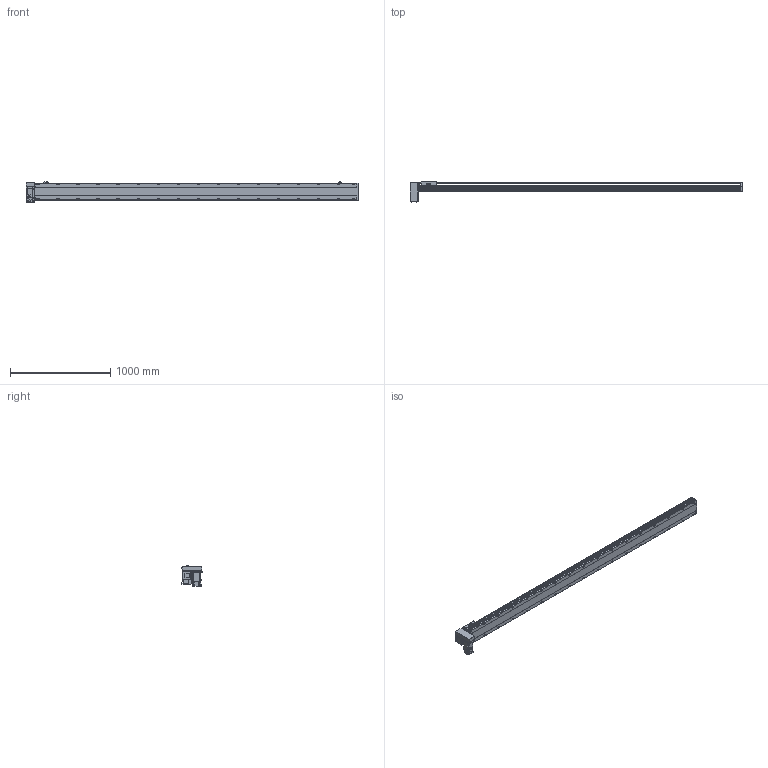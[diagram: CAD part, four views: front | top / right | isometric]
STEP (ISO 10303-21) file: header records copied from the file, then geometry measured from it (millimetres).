
FILE_DESCRIPTION( ( 'STEP AP214' ), '1' );
FILE_NAME( 'x:/temp/worker_5/temp/exporttempdir_3988_52_1T3Iv/format_0/PBS170-P40-S2950-RD-T75-C1-N(0).stp', '2022-06-08T05:38:28', ( 'License CC BY-ND 4.0' ), ( 'CADENAS' ), ' ', 'PARTsolutions', ' ' );
FILE_SCHEMA( ( 'AUTOMOTIVE_DESIGN { 1 0 10303 214 1 1 1 1 }' ) );
Length unit declared in the file: millimetre
Products named in the file (7): PBS170-P40-S2950-RD-T75-C1-N(0); _PBS170-S2950()_body; _PBS170T-RD_motors; _T75-p1; _PBS170_sliser; _PBS170_plant; _PBS170_sensor
Assembly tree (8 placements, depth 2):
  PBS170-P40-S2950-RD-T75-C1-N(0)
    _PBS170-S2950()_body
    _PBS170T-RD_motors
    _T75-p1
    _PBS170_sliser
    _PBS170_plant
    _PBS170_sensor  x3
Bounding box: 3313 x 201 x 205.3 mm (x, y, z)
Volume: 24885339.1 mm3; surface area: 3116293.2 mm2
Topology: 8 solids, 8 shells, 1226 faces, 3235 edges, 2108 vertices
Faces by surface type: plane 741, cylinder 411, cone 64, sphere 8, torus 2
Full cylindrical faces by diameter (mm): 3.242 x4, 4 x2, 4.4 x4, 4.5 x6, 4.917 x4, 6 x9, 6.647 x42, 7 x2, 7.5 x4, 8 x8, 8.5 x34, 10 x4, 10.5 x34, 11 x2, 30 x2, 40 x1, 70 x1
Entity records: 45518 total; most frequent: CARTESIAN_POINT 7733, DIRECTION 5930, ORIENTED_EDGE 5568, EDGE_CURVE 2784, AXIS2_PLACEMENT_3D 2107, VERTEX_POINT 1946, LINE 1716, VECTOR 1716
